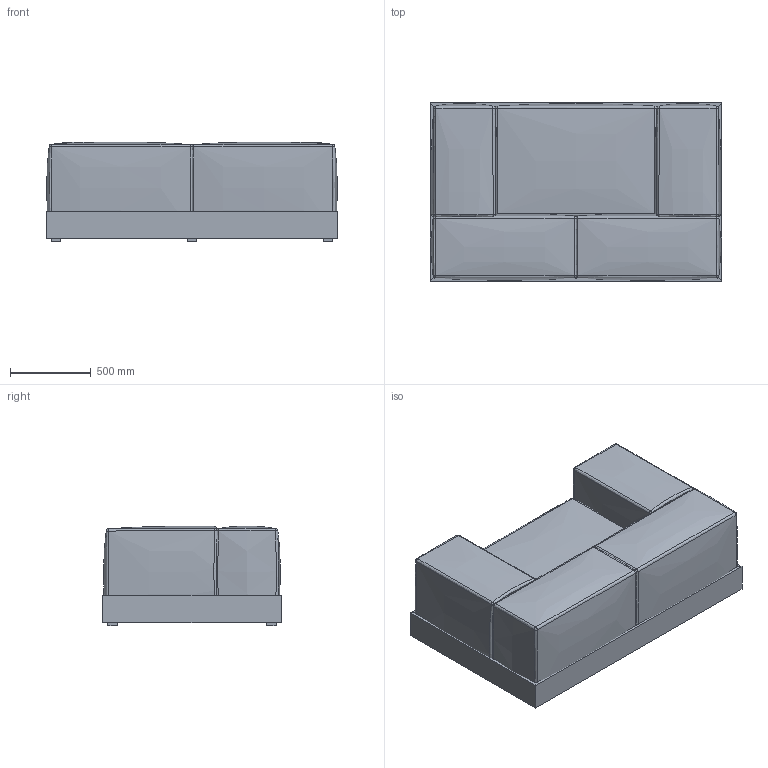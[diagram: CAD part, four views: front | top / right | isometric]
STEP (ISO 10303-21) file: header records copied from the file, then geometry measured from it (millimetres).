
FILE_DESCRIPTION(/* description */ (''),/* implementation_level */ '2;1');
FILE_NAME(/* name */ 'Polp1 180 brc.step',/* time_stamp */ '2024-01-07T09:56:26+01:00',/* author */ (''),/* organization */ (''),/* preprocessor_version */ 'ST-DEVELOPER v20',/* originating_system */ 'Autodesk Translation Framework v12.14.0.127',/* authorisation */ '');
FILE_SCHEMA (('AUTOMOTIVE_DESIGN { 1 0 10303 214 3 1 1 }'));
Length unit declared in the file: millimetre
Products named in the file (1): Polp1 180 brc
Bounding box: 1800 x 1100 x 615 mm (x, y, z)
Volume: 983001135.4 mm3; surface area: 16203678.4 mm2
Topology: 21 solids, 21 shells, 226 faces, 432 edges, 248 vertices
Faces by surface type: plane 101, bspline 85, sphere 40
Entity records: 16586 total; most frequent: CARTESIAN_POINT 12439, ORIENTED_EDGE 864, DIRECTION 716, EDGE_CURVE 432, AXIS2_PLACEMENT_3D 262, VERTEX_POINT 248, FACE_OUTER_BOUND 226, EDGE_LOOP 226
